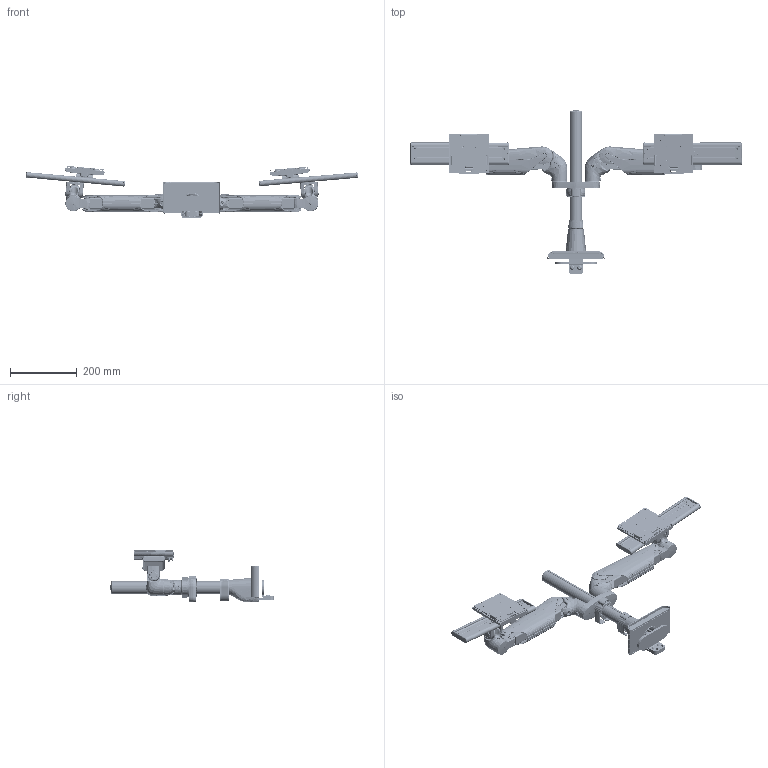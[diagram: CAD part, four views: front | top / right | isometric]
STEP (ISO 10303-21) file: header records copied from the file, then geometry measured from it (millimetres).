
FILE_DESCRIPTION(/* description */ (''),/* implementation_level */ '2;1');
FILE_NAME(/* name */ 'E5-P02D_Simplify_1.stp',/* time_stamp */ '2024-04-18T14:12:07-04:00',/* author */ ('sbowman'),/* organization */ (''),/* preprocessor_version */ 'ST-DEVELOPER v19.2',/* originating_system */ 'Autodesk Inventor 2023',/* authorisation */ '');
FILE_SCHEMA (('AUTOMOTIVE_DESIGN { 1 0 10303 214 3 1 1 }'));
Length unit declared in the file: millimetre
Products named in the file (1): Dual Dynamic Pole Assembly_Simplify_1
Bounding box: 997.12 x 491.45 x 157.45 mm (x, y, z)
Volume: 2373147.3 mm3; surface area: 1242269.9 mm2
Topology: 21 solids, 21 shells, 35026 faces, 87716 edges, 53615 vertices
Faces by surface type: plane 12753, bspline 12104, cylinder 6283, sphere 1332, cone 1301, torus 1253
Full cylindrical faces by diameter (mm): 1.76 x18, 2.013 x12, 2.35 x54, 2.459 x8, 3 x36, 3.091 x24, 3.242 x14, 3.4 x8, 4 x32, 4.2 x4, 4.5 x16, 4.6 x2, 5 x30, 5.5 x6, 6 x14, 6.1 x36, 6.3 x4, 6.376 x249, 6.4 x8, 6.5 x4, 6.647 x48, 6.655 x4, 7.5 x6, 7.87 x8, 8 x212, 8.2 x2, 8.376 x1, 8.4 x2, 9 x8, 9.3 x2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
Entity records: 1594345 total; most frequent: CARTESIAN_POINT 835252, ORIENTED_EDGE 174910, DIRECTION 129601, EDGE_CURVE 87455, VERTEX_POINT 53622, AXIS2_PLACEMENT_3D 45621, LINE 38359, VECTOR 38359
